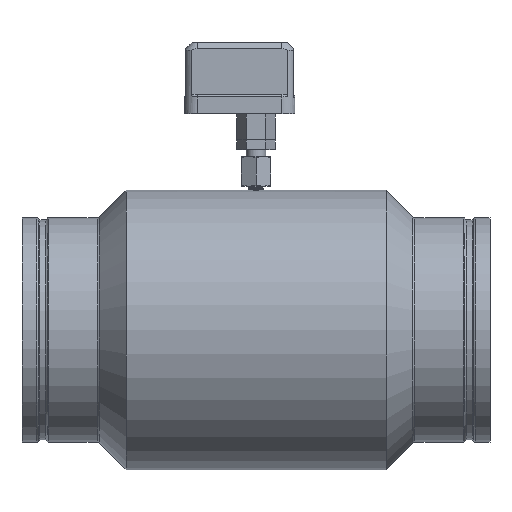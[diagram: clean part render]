
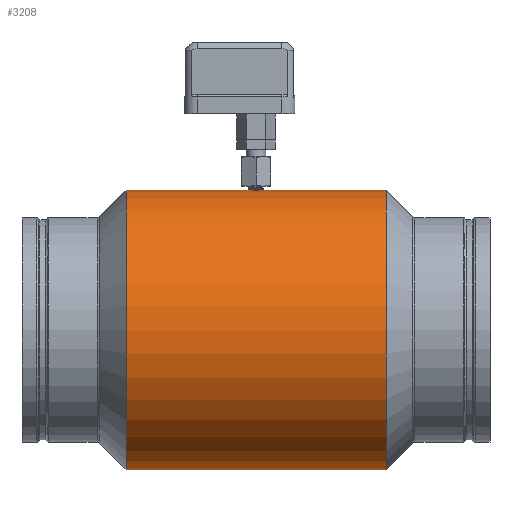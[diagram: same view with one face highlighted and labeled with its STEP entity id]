
A CAD part, top view. The second image highlights one B-rep face of the part: STEP entity #3208.
In plain terms, the highlighted cylindrical face has radius 136.525 mm (diameter 273.05 mm), a full revolution.
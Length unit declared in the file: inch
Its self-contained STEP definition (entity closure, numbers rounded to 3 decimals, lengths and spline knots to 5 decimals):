
#93=FACE_BOUND('',#476,.T.);
#182=CYLINDRICAL_SURFACE('',#3520,5.375);
#293=FACE_OUTER_BOUND('',#475,.T.);
#475=EDGE_LOOP('',(#2451,#2452,#2453,#2454,#2455,#2456));
#476=EDGE_LOOP('',(#2457,#2458));
#686=CIRCLE('',#3515,5.375);
#687=CIRCLE('',#3516,5.375);
#688=CIRCLE('',#3518,5.375);
#689=CIRCLE('',#3519,5.375);
#815=B_SPLINE_CURVE_WITH_KNOTS('',3,(#15189,#15190,#15191,#15192,#15193,
#15194,#15195,#15196,#15197,#15198,#15199,#15200,#15201,#15202,#15203,#15204,
#15205,#15206),.UNSPECIFIED.,.F.,.F.,(4,2,2,2,2,2,2,2,4),(0.85555,
1.06945,1.28336,1.49723,1.7111,1.92497,
2.13884,2.35274,2.56665),.UNSPECIFIED.);
#816=B_SPLINE_CURVE_WITH_KNOTS('',3,(#15212,#15213,#15214,#15215,#15216,
#15217,#15218,#15219,#15220,#15221,#15222,#15223,#15224,#15225,#15226,#15227,
#15228,#15229,#15230),.UNSPECIFIED.,.F.,.F.,(4,2,2,2,3,2,2,2,4),(2.56665,
2.78055,2.99445,3.20832,3.4222,3.63607,
3.84994,4.06384,4.27775),.UNSPECIFIED.);
#881=LINE('',#15429,#1054);
#1054=VECTOR('',#4134,5.375);
#1275=VERTEX_POINT('',#15187);
#1276=VERTEX_POINT('',#15188);
#1341=VERTEX_POINT('',#15419);
#1342=VERTEX_POINT('',#15420);
#1343=VERTEX_POINT('',#15424);
#1344=VERTEX_POINT('',#15425);
#1640=EDGE_CURVE('',#1275,#1276,#815,.T.);
#1644=EDGE_CURVE('',#1276,#1275,#816,.T.);
#1738=EDGE_CURVE('',#1341,#1342,#686,.T.);
#1739=EDGE_CURVE('',#1342,#1341,#687,.T.);
#1740=EDGE_CURVE('',#1343,#1344,#688,.T.);
#1741=EDGE_CURVE('',#1344,#1343,#689,.T.);
#1742=EDGE_CURVE('',#1344,#1342,#881,.T.);
#2451=ORIENTED_EDGE('',*,*,#1740,.F.);
#2452=ORIENTED_EDGE('',*,*,#1741,.F.);
#2453=ORIENTED_EDGE('',*,*,#1742,.T.);
#2454=ORIENTED_EDGE('',*,*,#1738,.F.);
#2455=ORIENTED_EDGE('',*,*,#1739,.F.);
#2456=ORIENTED_EDGE('',*,*,#1742,.F.);
#2457=ORIENTED_EDGE('',*,*,#1640,.T.);
#2458=ORIENTED_EDGE('',*,*,#1644,.T.);
#3208=ADVANCED_FACE('',(#293,#93),#182,.T.);
#3515=AXIS2_PLACEMENT_3D('',#15421,#4122,#4123);
#3516=AXIS2_PLACEMENT_3D('',#15422,#4124,#4125);
#3518=AXIS2_PLACEMENT_3D('',#15426,#4128,#4129);
#3519=AXIS2_PLACEMENT_3D('',#15427,#4130,#4131);
#3520=AXIS2_PLACEMENT_3D('',#15428,#4132,#4133);
#4122=DIRECTION('center_axis',(-1.,0.,0.));
#4123=DIRECTION('ref_axis',(0.,1.,0.));
#4124=DIRECTION('center_axis',(-1.,0.,0.));
#4125=DIRECTION('ref_axis',(0.,1.,0.));
#4128=DIRECTION('center_axis',(1.,0.,0.));
#4129=DIRECTION('ref_axis',(0.,1.,0.));
#4130=DIRECTION('center_axis',(1.,0.,0.));
#4131=DIRECTION('ref_axis',(0.,1.,0.));
#4132=DIRECTION('center_axis',(1.,0.,0.));
#4133=DIRECTION('ref_axis',(0.,1.,0.));
#4134=DIRECTION('',(-1.,0.,0.));
#15187=CARTESIAN_POINT('',(9.6748,11.49887,5.9375));
#15188=CARTESIAN_POINT('',(9.22761,11.49887,5.9375));
#15189=CARTESIAN_POINT('Ctrl Pts',(9.6748,11.49887,5.9375));
#15190=CARTESIAN_POINT('Ctrl Pts',(9.6748,11.49887,5.96557));
#15191=CARTESIAN_POINT('Ctrl Pts',(9.66918,11.49863,5.99551));
#15192=CARTESIAN_POINT('Ctrl Pts',(9.64635,11.49775,6.05057));
#15193=CARTESIAN_POINT('Ctrl Pts',(9.62913,11.49713,6.0757));
#15194=CARTESIAN_POINT('Ctrl Pts',(9.58943,11.49596,6.11536));
#15195=CARTESIAN_POINT('Ctrl Pts',(9.56429,11.49534,6.13255));
#15196=CARTESIAN_POINT('Ctrl Pts',(9.50921,11.49446,6.15534));
#15197=CARTESIAN_POINT('Ctrl Pts',(9.47927,11.49422,6.16095));
#15198=CARTESIAN_POINT('Ctrl Pts',(9.42314,11.49422,6.16095));
#15199=CARTESIAN_POINT('Ctrl Pts',(9.3932,11.49446,6.15534));
#15200=CARTESIAN_POINT('Ctrl Pts',(9.33812,11.49534,6.13255));
#15201=CARTESIAN_POINT('Ctrl Pts',(9.31299,11.49596,6.11536));
#15202=CARTESIAN_POINT('Ctrl Pts',(9.27328,11.49713,6.0757));
#15203=CARTESIAN_POINT('Ctrl Pts',(9.25606,11.49775,6.05057));
#15204=CARTESIAN_POINT('Ctrl Pts',(9.23323,11.49863,5.99551));
#15205=CARTESIAN_POINT('Ctrl Pts',(9.22761,11.49887,5.96557));
#15206=CARTESIAN_POINT('Ctrl Pts',(9.22761,11.49887,5.9375));
#15212=CARTESIAN_POINT('Ctrl Pts',(9.22761,11.49887,5.9375));
#15213=CARTESIAN_POINT('Ctrl Pts',(9.22761,11.49887,5.90943));
#15214=CARTESIAN_POINT('Ctrl Pts',(9.23323,11.49863,5.87949));
#15215=CARTESIAN_POINT('Ctrl Pts',(9.25606,11.49775,5.82443));
#15216=CARTESIAN_POINT('Ctrl Pts',(9.27328,11.49713,5.7993));
#15217=CARTESIAN_POINT('Ctrl Pts',(9.31299,11.49596,5.75964));
#15218=CARTESIAN_POINT('Ctrl Pts',(9.33812,11.49534,5.74245));
#15219=CARTESIAN_POINT('Ctrl Pts',(9.3932,11.49446,5.71966));
#15220=CARTESIAN_POINT('Ctrl Pts',(9.42314,11.49422,5.71405));
#15221=CARTESIAN_POINT('Ctrl Pts',(9.45121,11.49422,5.71405));
#15222=CARTESIAN_POINT('Ctrl Pts',(9.47927,11.49422,5.71405));
#15223=CARTESIAN_POINT('Ctrl Pts',(9.50921,11.49446,5.71966));
#15224=CARTESIAN_POINT('Ctrl Pts',(9.56429,11.49534,5.74245));
#15225=CARTESIAN_POINT('Ctrl Pts',(9.58943,11.49596,5.75964));
#15226=CARTESIAN_POINT('Ctrl Pts',(9.62913,11.49713,5.7993));
#15227=CARTESIAN_POINT('Ctrl Pts',(9.64635,11.49775,5.82443));
#15228=CARTESIAN_POINT('Ctrl Pts',(9.66918,11.49863,5.87949));
#15229=CARTESIAN_POINT('Ctrl Pts',(9.6748,11.49887,5.90943));
#15230=CARTESIAN_POINT('Ctrl Pts',(9.6748,11.49887,5.9375));
#15419=CARTESIAN_POINT('',(4.45121,11.49887,5.9375));
#15420=CARTESIAN_POINT('',(4.45121,0.74887,5.9375));
#15421=CARTESIAN_POINT('Origin',(4.45121,6.12387,5.9375));
#15422=CARTESIAN_POINT('Origin',(4.45121,6.12387,5.9375));
#15424=CARTESIAN_POINT('',(14.45121,11.49887,5.9375));
#15425=CARTESIAN_POINT('',(14.45121,0.74887,5.9375));
#15426=CARTESIAN_POINT('Origin',(14.45121,6.12387,5.9375));
#15427=CARTESIAN_POINT('Origin',(14.45121,6.12387,5.9375));
#15428=CARTESIAN_POINT('Origin',(9.45121,6.12387,5.9375));
#15429=CARTESIAN_POINT('',(9.45121,0.74887,5.9375));
